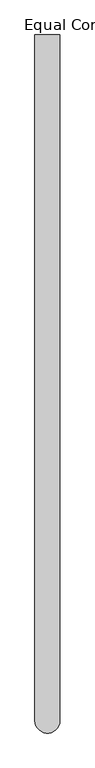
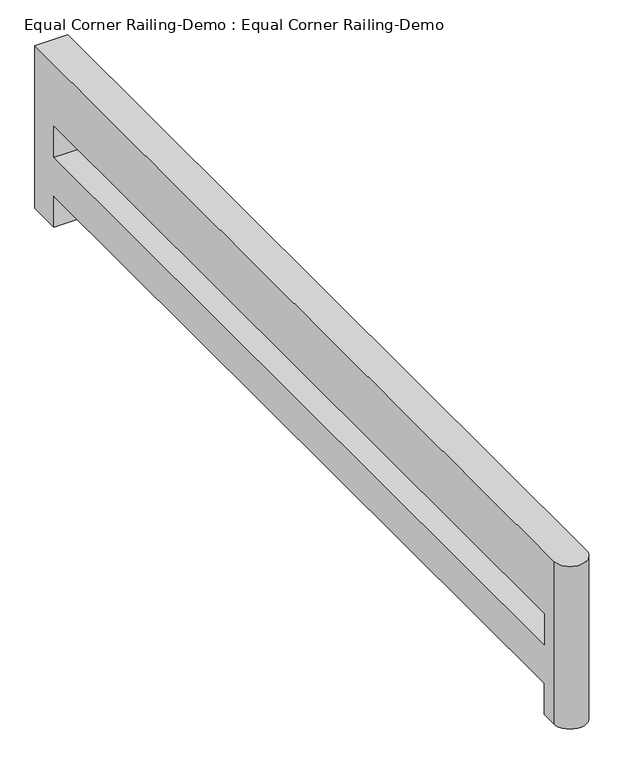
"""IFC4 building model written with IfcOpenShell, lengths in millimetres: railing geometry, Equal Corner Railing-Demo : Equal Corner Railing-Demo."""

from ifc_helpers import new_model, si_unit, frame, origin, place, context, project, spatial, circle_curve, source, transform, mapped, element, save
from ifc_brep_helpers import plane_surface, cylinder_surface, advanced_brep


def equal_corner_railing_demo_equal_corner_railing_demo_8632b08c(model_context):
    return source(origin(), model_context, "Body", "AdvancedBrep", [
        advanced_brep(
        [(-101.6, -5473.7, 1066.8), (101.6, -5473.7, 1066.8), (101.6, 101.6, 1066.8), (-101.6, 101.6, 1066.8), (-101.6, -5473.7, 0.0), (-101.6, -5372.1, 0.0), (101.6, -5372.1, 0.0), (101.6, -5473.7, 0.0), (101.6, 101.6, 0.0), (101.6, -101.6, 0.0), (-101.6, -101.6, 0.0), (-101.6, 101.6, 0.0), (-101.6, -101.6, 203.2), (-101.6, -5372.1, 203.2), (-101.6, -5372.1, 660.4), (-101.6, -5372.1, 457.2), (-101.6, -101.6, 457.2), (-101.6, -101.6, 660.4), (101.6, -5372.1, 203.2), (101.6, -101.6, 203.2), (101.6, -101.6, 660.4), (101.6, -101.6, 457.2), (101.6, -5372.1, 457.2), (101.6, -5372.1, 660.4)],
        [
            (0, 1, circle_curve(frame((0.0, -5473.7, 1066.8), z_axis=(0.0, 0.0, 1.0), x_axis=(1.0, 0.0, 0.0)), 101.6)),
            (1, 2),
            (2, 3),
            (3, 0),
            (4, 5),
            (5, 6),
            (6, 7),
            (7, 4, circle_curve(frame((0.0, -5473.7, 0.0), z_axis=(0.0, 0.0, -1.0), x_axis=(1.0, 0.0, 0.0)), 101.6)),
            (8, 9),
            (9, 10),
            (10, 11),
            (11, 8),
            (3, 11),
            (10, 12),
            (12, 13),
            (13, 5),
            (4, 0),
            (14, 15),
            (15, 16),
            (16, 17),
            (17, 14),
            (2, 8),
            (1, 7),
            (6, 18),
            (18, 19),
            (19, 9),
            (20, 21),
            (21, 22),
            (22, 23),
            (23, 20),
            (18, 13),
            (12, 19),
            (23, 14),
            (17, 20),
            (16, 21),
            (15, 22),
        ],
        [
            plane_surface(frame((-101.6, 0.0, 1066.8), z_axis=(0.0, 0.0, 1.0), x_axis=(0.0, 1.0, 0.0))),
            plane_surface(frame((-101.6, 0.0, 0.0), z_axis=(0.0, 0.0, -1.0), x_axis=(0.0, -1.0, 0.0))),
            plane_surface(frame((-101.6, -5473.7, 1066.8), z_axis=(-1.0, 0.0, 0.0), x_axis=(0.0, 0.0, -1.0))),
            plane_surface(frame((-101.6, 101.6, 1066.8), z_axis=(0.0, 1.0, 0.0), x_axis=(0.0, 0.0, -1.0))),
            plane_surface(frame((101.6, 101.6, 1066.8), z_axis=(1.0, 0.0, 0.0), x_axis=(0.0, 0.0, -1.0))),
            cylinder_surface(frame((0.0, -5473.7, 0.0), z_axis=(0.0, 0.0, 1.0), x_axis=(1.0, 0.0, 0.0)), 101.6),
            plane_surface(frame((101.6, -5372.1, 203.2), z_axis=(0.0, 0.0, -1.0), x_axis=(-1.0, 0.0, 0.0))),
            plane_surface(frame((101.6, -101.6, 203.2), z_axis=(0.0, -1.0, 0.0), x_axis=(-1.0, 0.0, 0.0))),
            plane_surface(frame((101.6, -5372.1, 0.0), z_axis=(0.0, 1.0, 0.0), x_axis=(-1.0, 0.0, 0.0))),
            plane_surface(frame((101.6, -5372.1, 660.4), z_axis=(0.0, 0.0, -1.0), x_axis=(-1.0, 0.0, 0.0))),
            plane_surface(frame((101.6, -101.6, 660.4), z_axis=(0.0, -1.0, 0.0), x_axis=(-1.0, 0.0, 0.0))),
            plane_surface(frame((101.6, -101.6, 457.2), z_axis=(0.0, 0.0, 1.0), x_axis=(-1.0, 0.0, 0.0))),
            plane_surface(frame((101.6, -5372.1, 457.2), z_axis=(0.0, 1.0, 0.0), x_axis=(-1.0, 0.0, 0.0))),
        ],
        [
            (0, [[1, 2, 3, 4]]),
            (1, [[5, 6, 7, 8]]),
            (1, [[9, 10, 11, 12]]),
            (2, [[13, -11, 14, 15, 16, -5, 17, -4], [18, 19, 20, 21]]),
            (3, [[22, -12, -13, -3]]),
            (4, [[23, -7, 24, 25, 26, -9, -22, -2], [27, 28, 29, 30]]),
            (5, [[-17, -8, -23, -1]]),
            (6, [[-25, 31, -15, 32]]),
            (7, [[-14, -10, -26, -32]]),
            (8, [[-24, -6, -16, -31]]),
            (9, [[-30, 33, -21, 34]]),
            (10, [[-20, 35, -27, -34]]),
            (11, [[-19, 36, -28, -35]]),
            (12, [[-29, -36, -18, -33]]),
        ],
    ),
    ])


if __name__ == "__main__":
    model = new_model("IFC4")
    model_context = context("Model", 3, world=origin())
    ifc_project = project(units=[si_unit("LENGTHUNIT", "METRE", prefix="MILLI")], contexts=[model_context])
    site = spatial("IfcSite", under=ifc_project)
    building = spatial("IfcBuilding", under=site)
    placement = place(None, origin())
    equal_corner_railing_demo_equal_corner_railing_demo_shape = equal_corner_railing_demo_equal_corner_railing_demo_8632b08c(model_context)
    element("IfcRailing", 1, ObjectType="Equal Corner Railing-Demo : Equal Corner Railing-Demo", at=placement, inside=building, context=model_context, shape_type="MappedRepresentation", body=[
        mapped(equal_corner_railing_demo_equal_corner_railing_demo_shape, transform((0.0, 0.0, 0.0), x_axis=(1.0, 0.0, 0.0), y_axis=(0.0, 1.0, 0.0), z_axis=(0.0, 0.0, 1.0))),
    ])
    save(model, "model.ifc")
